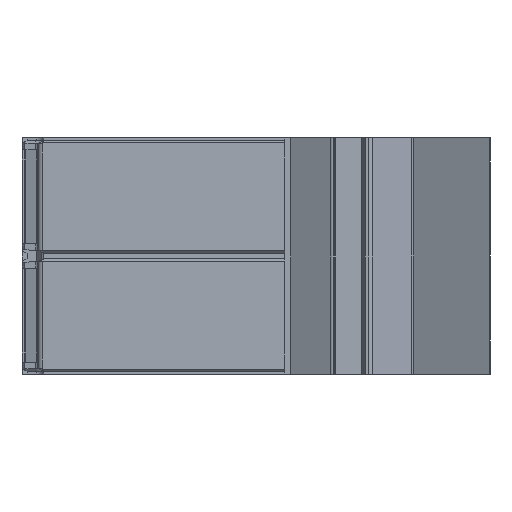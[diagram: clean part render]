
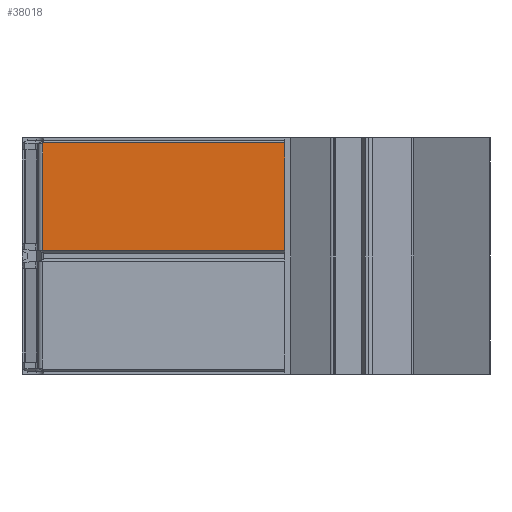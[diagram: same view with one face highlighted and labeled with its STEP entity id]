
A CAD part, left-side view. The second image highlights one B-rep face of the part: STEP entity #38018.
In plain terms, the highlighted planar face has unit normal (-1, 0, 0).
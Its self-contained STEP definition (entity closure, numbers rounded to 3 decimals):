
#7937=DIRECTION('',(0.,0.,-1.));
#7938=VECTOR('',#7937,11.5);
#7939=CARTESIAN_POINT('',(-56.413,15.132,24.65));
#7940=LINE('',#7939,#7938);
#14445=CARTESIAN_POINT('',(-56.413,40.907,
13.155));
#14446=CARTESIAN_POINT('',(-56.413,40.896,
13.154));
#14447=CARTESIAN_POINT('',(-56.413,40.873,
13.152));
#14448=CARTESIAN_POINT('',(-56.413,40.84,
13.15));
#14449=CARTESIAN_POINT('',(-56.413,40.818,
13.15));
#14450=CARTESIAN_POINT('',(-56.413,40.807,
13.15));
#14455=DIRECTION('',(0.,1.,0.));
#14456=VECTOR('',#14455,25.674);
#14457=CARTESIAN_POINT('',(-56.413,15.132,
24.65));
#14458=LINE('',#14457,#14456);
#14511=DIRECTION('',(0.,0.,1.));
#14512=VECTOR('',#14511,11.49);
#14513=CARTESIAN_POINT('',(-56.413,40.907,
13.155));
#14514=LINE('',#14513,#14512);
#14546=CARTESIAN_POINT('',(-56.413,40.907,
24.645));
#14547=CARTESIAN_POINT('',(-56.413,40.896,
24.646));
#14548=CARTESIAN_POINT('',(-56.413,40.873,
24.648));
#14549=CARTESIAN_POINT('',(-56.413,40.84,
24.65));
#14550=CARTESIAN_POINT('',(-56.413,40.818,
24.65));
#14551=CARTESIAN_POINT('',(-56.413,40.807,
24.65));
#14563=DIRECTION('',(0.,1.,0.));
#14564=VECTOR('',#14563,25.674);
#14565=CARTESIAN_POINT('',(-56.413,15.132,
13.15));
#14566=LINE('',#14565,#14564);
#23821=CARTESIAN_POINT('',(-56.413,15.132,
24.65));
#23822=VERTEX_POINT('',#23821);
#23823=CARTESIAN_POINT('',(-56.413,15.132,
13.15));
#23824=VERTEX_POINT('',#23823);
#24147=CARTESIAN_POINT('',(-56.413,40.807,
24.65));
#24148=VERTEX_POINT('',#24147);
#24149=VERTEX_POINT('',#14445);
#24150=VERTEX_POINT('',#14450);
#24151=VERTEX_POINT('',#14546);
#38001=CARTESIAN_POINT('',(-56.413,40.907,
1.15));
#38002=DIRECTION('',(1.,0.,0.));
#38003=DIRECTION('',(0.,-1.,0.));
#38004=AXIS2_PLACEMENT_3D('',#38001,#38002,#38003);
#38005=PLANE('',#38004);
#38007=ORIENTED_EDGE('',*,*,#38006,.F.);
#38009=ORIENTED_EDGE('',*,*,#38008,.T.);
#38011=ORIENTED_EDGE('',*,*,#38010,.T.);
#38012=ORIENTED_EDGE('',*,*,#37993,.F.);
#38013=ORIENTED_EDGE('',*,*,#32258,.T.);
#38015=ORIENTED_EDGE('',*,*,#38014,.T.);
#38016=EDGE_LOOP('',(#38007,#38009,#38011,#38012,#38013,#38015));
#38017=FACE_OUTER_BOUND('',#38016,.F.);
#38018=ADVANCED_FACE('',(#38017),#38005,.F.);
#14451=B_SPLINE_CURVE_WITH_KNOTS('',3,(#14445,#14446,#14447,#14448,#14449,
#14450),.UNSPECIFIED.,.F.,.F.,(4,1,1,4),(0.,0.333,
0.667,1.),.UNSPECIFIED.);
#14552=B_SPLINE_CURVE_WITH_KNOTS('',3,(#14546,#14547,#14548,#14549,#14550,
#14551),.UNSPECIFIED.,.F.,.F.,(4,1,1,4),(0.,0.333,
0.667,1.),.UNSPECIFIED.);
#32258=EDGE_CURVE('',#23822,#23824,#7940,.T.);
#37993=EDGE_CURVE('',#23822,#24148,#14458,.T.);
#38006=EDGE_CURVE('',#24149,#24150,#14451,.T.);
#38008=EDGE_CURVE('',#24149,#24151,#14514,.T.);
#38010=EDGE_CURVE('',#24151,#24148,#14552,.T.);
#38014=EDGE_CURVE('',#23824,#24150,#14566,.T.);
